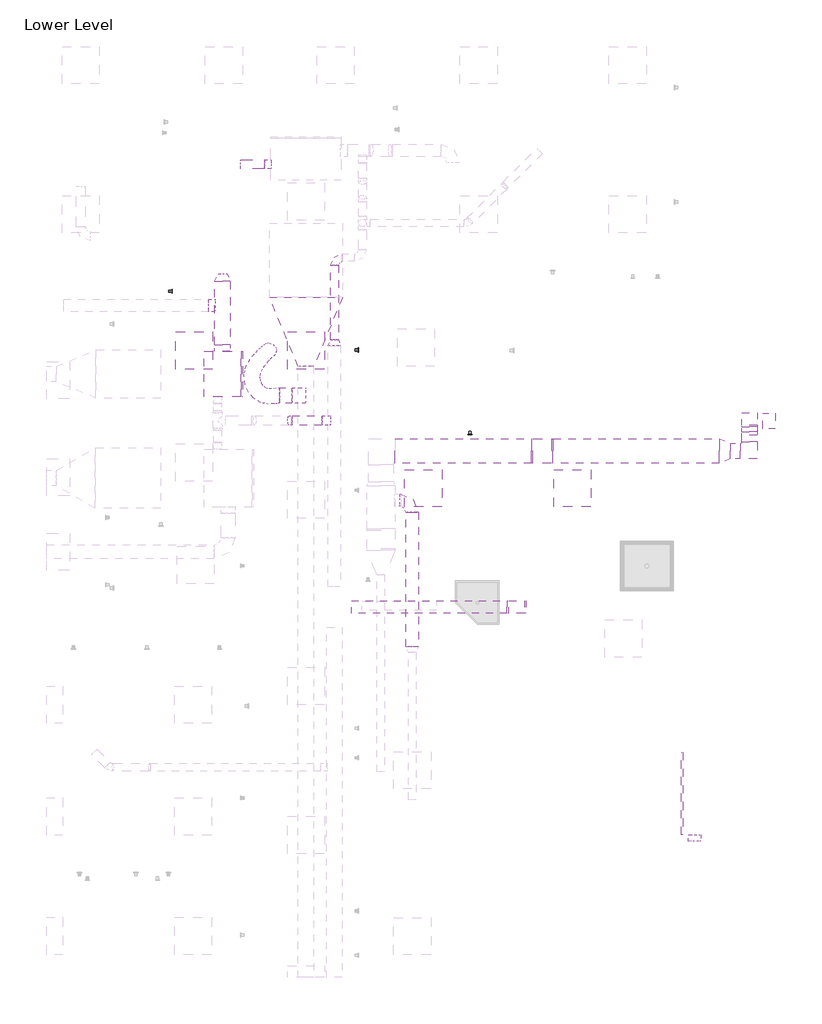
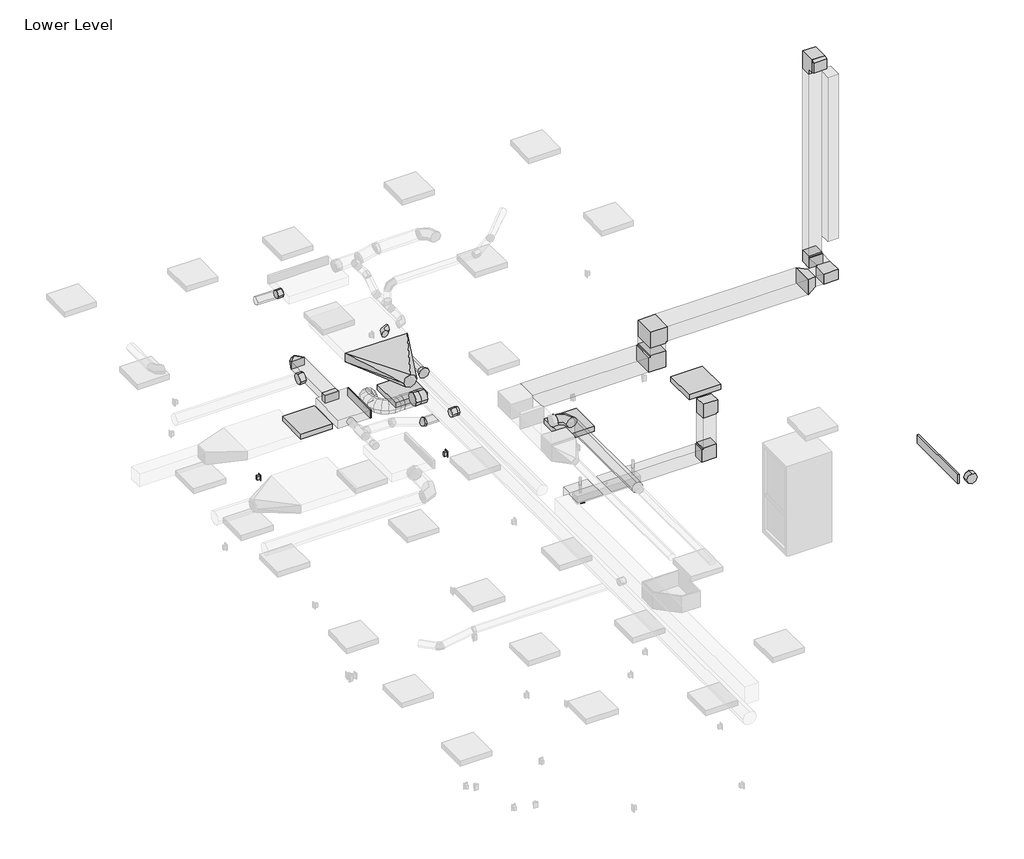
# One storey, part 3 of 4: 23 duct fittings, 17 duct segments, 4 light fixtures, 2 switching devices, 1 proxy.
"""IFC4 building model written with IfcOpenShell, lengths in millimetres."""

from ifc_helpers import new_model, si_unit, point, frame, frame_2d, origin, place, context, project, spatial, polyline, circle_curve, ellipse_curve, trimmed, segment, composite_curve, outline, extrude, transform, mapped, element, save
from ifc_brep_helpers import plane_surface, cylinder_surface, advanced_brep
from components import duplex_receptacle_countertop_10251bba, rectangular_elbow_mitered_transition_standard_34e7224c, rectangular_elbow_mitered_standard_f09b78ec, rectangular_elbow_mitered_standard_c070aa60, rectangular_elbow_mitered_standard_d7b64f5d, rectangular_endcap_standard_43f25f61, rectangular_endcap_standard_3ad2bc23, rectangular_takeoff_standard_c6066038, rectangular_transition_angle_45_degree_591ca4bc, rectangular_transition_angle_45_degree_c4f24900, rectangular_to_round_transition_angle_45_degree_c21d7c10, rectangular_to_round_transition_angle_45_degree_677d3a23, round_elbow_1_d_a253342a, round_elbow_1_d_c80420c1, round_elbow_1_d_f0624a5f, round_takeoff_standard_db554fbb, round_takeoff_standard_d3b0d0f9, round_takeoff_standard_0a2b6d05, round_takeoff_standard_d952ff4d, round_transition_angle_45_degree_a4d0e481, troffer_corner_insert_2x2_3lamp_e67c7f8f

model = new_model("IFC4")

# Units and contexts
model_context = context("Model", 3, world=origin())
ifc_project = project(units=[si_unit("LENGTHUNIT", "METRE", prefix="MILLI")], contexts=[model_context])

# Site, building, storey
site = spatial("IfcSite", under=ifc_project)
building = spatial("IfcBuilding", under=site)
storey = spatial("IfcBuildingStorey", under=building, Name="Lower Level", Elevation=29972.0)

# Proxy
placement = place(None, origin())
duplex_receptacle_countertop_shape = duplex_receptacle_countertop_10251bba(model_context)
element("IfcBuildingElementProxy", 1, Name="Duplex Receptacle : GFCI", ObjectType="Duplex Receptacle : GFCI", at=placement, inside=storey, context=model_context, shape_type="MappedRepresentation", body=[
    mapped(duplex_receptacle_countertop_shape, transform((-10921.2162946, 7255.8695005, 30429.2), x_axis=(1.0, 0.0, 0.0), y_axis=(0.0, 0.0, 1.0), z_axis=(0.0, -1.0, 0.0))),
])

# Duct fittings
rectangular_elbow_mitered_transition_standard_shape = rectangular_elbow_mitered_transition_standard_34e7224c(model_context)
element("IfcDuctFitting", 2, ObjectType="Rectangular Elbow - Mitered - Transition : Standard", at=placement, inside=storey, context=model_context, shape_type="MappedRepresentation", body=[
    mapped(rectangular_elbow_mitered_transition_standard_shape, transform((-6347.3126806, 7505.3293332, 37693.6), x_axis=(0.0, 0.0, 1.0), y_axis=(0.0, -1.0, 0.0), z_axis=(1.0, 0.0, 0.0))),
])
rectangular_elbow_mitered_standard_shape = rectangular_elbow_mitered_standard_f09b78ec(model_context)
element("IfcDuctFitting", 3, ObjectType="Rectangular Elbow - Mitered : Standard", at=placement, inside=storey, context=model_context, shape_type="MappedRepresentation", body=[
    mapped(rectangular_elbow_mitered_standard_shape, transform((-10160.5055151, 4430.1195005, 33807.4), x_axis=(0.0, 0.0, 1.0), y_axis=(1.0, 0.0, 0.0), z_axis=(0.0, 1.0, 0.0))),
])
element("IfcDuctFitting", 4, ObjectType="Rectangular Elbow - Mitered : Standard", at=placement, inside=storey, context=model_context, shape_type="MappedRepresentation", body=[
    mapped(rectangular_elbow_mitered_standard_shape, transform((-6347.3126806, 6984.6293332, 33629.6), x_axis=(1.0, 0.0, 0.0), y_axis=(0.0, 1.0, 0.0), z_axis=(0.0, 0.0, 1.0))),
])
element("IfcDuctFitting", 5, ObjectType="Rectangular Elbow - Mitered : Standard", at=placement, inside=storey, context=model_context, shape_type="MappedRepresentation", body=[
    mapped(rectangular_elbow_mitered_standard_shape, transform((-10160.5055151, 4430.1195005, 32893.0), x_axis=(0.0, 0.0, -1.0), y_axis=(-1.0, 0.0, 0.0), z_axis=(0.0, 1.0, 0.0))),
])
rectangular_elbow_mitered_standard_2_shape = rectangular_elbow_mitered_standard_c070aa60(model_context)
element("IfcDuctFitting", 6, ObjectType="Rectangular Elbow - Mitered : Standard", at=placement, inside=storey, context=model_context, shape_type="MappedRepresentation", body=[
    mapped(rectangular_elbow_mitered_standard_2_shape, transform((-9738.2126806, 6984.6293332, 33121.6), x_axis=(1.0, 0.0, 0.0), y_axis=(0.0, 0.0, 1.0), z_axis=(0.0, -1.0, 0.0))),
])
element("IfcDuctFitting", 7, ObjectType="Rectangular Elbow - Mitered : Standard", at=placement, inside=storey, context=model_context, shape_type="MappedRepresentation", body=[
    mapped(rectangular_elbow_mitered_standard_2_shape, transform((-9738.2126806, 6984.6293332, 33629.6), x_axis=(0.0, 0.0, 1.0), y_axis=(1.0, 0.0, 0.0), z_axis=(0.0, 1.0, 0.0))),
])
rectangular_elbow_mitered_standard_3_shape = rectangular_elbow_mitered_standard_d7b64f5d(model_context)
element("IfcDuctFitting", 8, ObjectType="Rectangular Elbow - Mitered : Standard", at=placement, inside=storey, context=model_context, shape_type="MappedRepresentation", body=[
    mapped(rectangular_elbow_mitered_standard_3_shape, transform((-6347.3126806, 7505.3293332, 33629.6), x_axis=(0.0, 0.0, -1.0), y_axis=(0.0, -1.0, 0.0), z_axis=(-1.0, 0.0, 0.0))),
])
rectangular_endcap_standard_shape = rectangular_endcap_standard_43f25f61(model_context)
element("IfcDuctFitting", 9, ObjectType="Rectangular Endcap : Standard", at=placement, inside=storey, context=model_context, shape_type="MappedRepresentation", body=[
    mapped(rectangular_endcap_standard_shape, transform((-14665.2337034, 8243.4520797, 33121.6), x_axis=(1.0, 0.0, 0.0), y_axis=(0.0, 1.0, 0.0), z_axis=(0.0, 0.0, 1.0))),
])
rectangular_endcap_standard_2_shape = rectangular_endcap_standard_3ad2bc23(model_context)
element("IfcDuctFitting", 10, ObjectType="Rectangular Endcap : Standard", at=placement, inside=storey, context=model_context, shape_type="MappedRepresentation", body=[
    mapped(rectangular_endcap_standard_2_shape, transform((-7438.8450089, 1382.1195005, 33617.69375), x_axis=(-1.0, 0.0, 0.0), y_axis=(0.0, -1.0, 0.0), z_axis=(0.0, 0.0, 1.0))),
])
rectangular_takeoff_standard_shape = rectangular_takeoff_standard_c6066038(model_context)
element("IfcDuctFitting", 11, ObjectType="Rectangular Takeoff : Standard", at=placement, inside=storey, context=model_context, shape_type="MappedRepresentation", body=[
    mapped(rectangular_takeoff_standard_shape, transform((-14970.033703, 8618.7395797, 33121.6), x_axis=(0.0, 1.0, 0.0), y_axis=(1.0, 0.0, 0.0), z_axis=(0.0, 0.0, -1.0))),
])
rectangular_transition_angle_45_degree_shape = rectangular_transition_angle_45_degree_591ca4bc(model_context)
element("IfcDuctFitting", 12, ObjectType="Rectangular Transition - Angle : 45 Degree", at=placement, inside=storey, context=model_context, shape_type="MappedRepresentation", body=[
    mapped(rectangular_transition_angle_45_degree_shape, transform((-6842.6126806, 6984.6293332, 33629.6), x_axis=(1.0, 0.0, 0.0), y_axis=(0.0, 1.0, 0.0), z_axis=(0.0, 0.0, 1.0))),
])
rectangular_transition_angle_45_degree_2_shape = rectangular_transition_angle_45_degree_c4f24900(model_context)
element("IfcDuctFitting", 13, ObjectType="Rectangular Transition - Angle : 45 Degree", at=placement, inside=storey, context=model_context, shape_type="MappedRepresentation", body=[
    mapped(rectangular_transition_angle_45_degree_2_shape, transform((-6347.3126806, 7302.1293332, 37693.6), x_axis=(0.0, -1.0, 0.0), y_axis=(1.0, 0.0, 0.0), z_axis=(0.0, 0.0, 1.0))),
])
rectangular_to_round_transition_angle_45_degree_shape = rectangular_to_round_transition_angle_45_degree_c21d7c10(model_context)
element("IfcDuctFitting", 14, ObjectType="Rectangular to Round Transition - Angle : 45 Degree", at=placement, inside=storey, context=model_context, shape_type="MappedRepresentation", body=[
    mapped(rectangular_to_round_transition_angle_45_degree_shape, transform((-13605.5079607, 9497.2083308, 33125.965625), x_axis=(0.0, -1.0, 0.0), y_axis=(1.0, 0.0, 0.0), z_axis=(0.0, 0.0, 1.0))),
])
rectangular_to_round_transition_angle_45_degree_2_shape = rectangular_to_round_transition_angle_45_degree_677d3a23(model_context)
element("IfcDuctFitting", 15, ObjectType="Rectangular to Round Transition - Angle : 45 Degree", at=placement, inside=storey, context=model_context, shape_type="MappedRepresentation", body=[
    mapped(rectangular_to_round_transition_angle_45_degree_2_shape, transform((-14970.033703, 9761.7395797, 33121.6), x_axis=(0.0, 1.0, 0.0), y_axis=(-1.0, 0.0, 0.0), z_axis=(0.0, 0.0, 1.0))),
])
round_elbow_1_d_shape = round_elbow_1_d_a253342a(model_context)
element("IfcDuctFitting", 16, ObjectType="Round Elbow : 1 D", at=placement, inside=storey, context=model_context, shape_type="MappedRepresentation", body=[
    mapped(round_elbow_1_d_shape, transform((-11866.4513201, 6182.7195005, 33121.6), x_axis=(0.0, 1.0, 0.0), y_axis=(-1.0, 0.0, 0.0), z_axis=(0.0, 0.0, 1.0))),
])
round_elbow_1_d_2_shape = round_elbow_1_d_c80420c1(model_context)
element("IfcDuctFitting", 17, ObjectType="Round Elbow : 1 D", at=placement, inside=storey, context=model_context, shape_type="MappedRepresentation", body=[
    mapped(round_elbow_1_d_2_shape, transform((-13138.544811, 10147.8938374, 32918.4), x_axis=(-1.0, 0.0, 0.0), y_axis=(0.0, -1.0, 0.0), z_axis=(0.0, 0.0, 1.0))),
])
round_elbow_1_d_3_shape = round_elbow_1_d_f0624a5f(model_context)
element("IfcDuctFitting", 18, ObjectType="Round Elbow : 1 D", at=placement, inside=storey, context=model_context, shape_type="MappedRepresentation", body=[
    mapped(round_elbow_1_d_3_shape, transform((-13857.8903997, 7481.5106674, 32918.4), x_axis=(0.9490023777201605, 0.0, -0.31526891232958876), y_axis=(0.31526891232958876, 0.0, 0.9490023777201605), z_axis=(0.0, -1.0, 0.0))),
])
round_takeoff_standard_shape = round_takeoff_standard_db554fbb(model_context)
element("IfcDuctFitting", 19, ObjectType="Round Takeoff : Standard", at=placement, inside=storey, context=model_context, shape_type="MappedRepresentation", body=[
    mapped(round_takeoff_standard_shape, transform((-13240.144811, 7481.5106674, 32918.4), x_axis=(-1.0, 0.0, 0.0), y_axis=(0.0, 1.0, 0.0), z_axis=(0.0, 0.0, -1.0))),
])
round_takeoff_standard_2_shape = round_takeoff_standard_d3b0d0f9(model_context)
element("IfcDuctFitting", 20, ObjectType="Round Takeoff : Standard", at=placement, inside=storey, context=model_context, shape_type="MappedRepresentation", body=[
    mapped(round_takeoff_standard_2_shape, transform((-7247.6134283, 704.2570005, 33617.69375), x_axis=(0.0, -1.0, 0.0), y_axis=(-1.0, 0.0, 0.0), z_axis=(0.0, 0.0, -1.0))),
])
element("IfcDuctFitting", 21, ObjectType="Round Takeoff : Standard", at=placement, inside=storey, context=model_context, shape_type="MappedRepresentation", body=[
    mapped(round_takeoff_standard_2_shape, transform((-15097.033703, 9360.8945005, 33121.6), x_axis=(-1.0, 0.0, 0.0), y_axis=(0.0, 1.0, 0.0), z_axis=(0.0, 0.0, -1.0))),
])
round_takeoff_standard_3_shape = round_takeoff_standard_0a2b6d05(model_context)
element("IfcDuctFitting", 22, ObjectType="Round Takeoff : Standard", at=placement, inside=storey, context=model_context, shape_type="MappedRepresentation", body=[
    mapped(round_takeoff_standard_3_shape, transform((-14180.8079607, 11673.8820005, 33121.6), x_axis=(-1.0, 0.0, 0.0), y_axis=(0.0, 1.0, 0.0), z_axis=(0.0, 0.0, -1.0))),
])
round_takeoff_standard_4_shape = round_takeoff_standard_d952ff4d(model_context)
element("IfcDuctFitting", 23, ObjectType="Round Takeoff : Standard", at=placement, inside=storey, context=model_context, shape_type="MappedRepresentation", body=[
    mapped(round_takeoff_standard_4_shape, transform((-13732.5079603, 7890.6991771, 33125.8664063), x_axis=(-1.0, 0.0, 0.0), y_axis=(0.0, 1.0, 0.0), z_axis=(0.0, 0.0, -1.0))),
])
round_transition_angle_45_degree_shape = round_transition_angle_45_degree_a4d0e481(model_context)
element("IfcDuctFitting", 24, ObjectType="Round Transition - Angle : 45 Degree", at=placement, inside=storey, context=model_context, shape_type="MappedRepresentation", body=[
    mapped(round_transition_angle_45_degree_shape, transform((-13138.544811, 8801.6938374, 32918.4), x_axis=(0.0, -1.0, 0.0), y_axis=(1.0, 0.0, 0.0), z_axis=(0.0, 0.0, 1.0))),
])

# Duct segments
element("IfcDuctSegment", 25, ObjectType="Flex - Round", at=placement, inside=storey, context=model_context, shape_type="AdvancedBrep", body=[
    advanced_brep(
    [(-14037.3079605, 7763.6991771, 33125.8664063), (-14037.3079605, 7890.6991771, 32998.8664063), (-14037.3079605, 8017.6991771, 33125.8664063), (-14037.3079605, 7890.6991771, 33252.8664063), (-14040.9920083, 7763.6991771, 33125.8664063), (-14045.0423151, 7890.6991771, 32998.8664063), (-14050.0146519, 8017.6991771, 33125.8664063), (-14045.9643451, 7890.6991771, 33252.8664063), (-14321.2846893, 8695.563435, 32769.175), (-14145.4265263, 8732.0587291, 32769.175), (-14108.9312321, 8556.2005661, 32769.175), (-14284.7893951, 8519.7052719, 32769.175), (-14119.58986, 7758.1081083, 33125.2950512), (-14126.5972662, 7884.8977546, 32998.2735551), (-14135.1998695, 8011.6395151, 33125.2471654), (-14128.1924633, 7884.8498688, 33252.2686616), (-14225.5060669, 7752.5984317, 33124.7320137), (-14218.0674383, 7880.1395492, 32997.7873109), (-14208.9395831, 8007.803634, 33124.8551742), (-14216.3782117, 7880.2625165, 33251.799877), (-14349.2226435, 7775.3196166, 33127.0502738), (-14306.7437824, 7896.4254154, 32999.4489704), (-14255.7287503, 8016.3967049, 33125.7319318), (-14298.2076115, 7895.2909061, 33253.3332352), (-14462.7192682, 7846.2863307, 33133.252861), (-14384.307358, 7944.9240568, 33003.6878175), (-14294.1283697, 8040.4070649, 33127.8304699), (-14372.5402799, 7941.7693389, 33257.3955134), (-14547.8206041, 7947.8223241, 33138.4069089), (-14443.8431141, 8015.9572793, 33007.2935205), (-14330.9025979, 8084.2830834, 33130.0576516), (-14434.880088, 8016.1481282, 33261.17104), (-14602.6772442, 8069.2170113, 33138.0158328), (-14481.2164139, 8098.6623089, 33007.0270841), (-14356.2082048, 8140.2829811, 33129.8772464), (-14477.6690352, 8110.8376835, 33260.8659951), (-14621.3719284, 8202.6166104, 33127.1461156), (-14493.0254609, 8182.9280887, 33000.1609076), (-14364.2698133, 8197.8081757, 33125.1899565), (-14492.6162808, 8217.4966974, 33252.1751645), (-14598.480399, 8330.6774108, 33102.2923605), (-14478.7118444, 8263.0019522, 32984.6203504), (-14353.5761466, 8257.6311563, 33113.5796456), (-14473.3447013, 8325.3066149, 33231.2516557), (-14548.4441978, 8440.3669796, 33065.8906429), (-14444.5039259, 8337.9926934, 32959.7338292), (-14323.1698818, 8324.2878967, 33091.4588563), (-14427.1101536, 8426.6621829, 33197.6156701), (-14486.5511669, 8530.9053424, 33019.9282394), (-14398.9643943, 8404.6088306, 32925.915703), (-14276.7252307, 8392.2280608, 33056.968579), (-14364.3120032, 8518.5245726, 33150.9811154), (-14423.7636394, 8602.7999632, 32965.1804845), (-14352.0530385, 8458.3245011, 32885.011219), (-14222.2419806, 8454.6139001, 33009.4617613), (-14293.9525816, 8599.0893622, 33089.6310268), (-14370.0613539, 8654.7547782, 32903.1223169), (-14314.1877161, 8494.9576872, 32841.254189), (-14168.702514, 8506.4111943, 32947.5917468), (-14224.5761518, 8666.2082853, 33009.4598747), (-14333.5480554, 8685.9686114, 32835.2414671), (-14290.0874716, 8515.5600717, 32796.4500998), (-14126.965206, 8542.0908351, 32869.9990872), (-14170.4257899, 8712.4993749, 32908.7904545), (-14321.2846893, 8695.563435, 32790.7822465), (-14284.7893951, 8519.7052719, 32777.2426207), (-14108.9312321, 8556.2005661, 32804.6192872), (-14145.4265263, 8732.0587291, 32818.158913)],
    [
        (0, 1, circle_curve(frame((-14037.3079605, 7890.6991771, 33125.8664063), z_axis=(1.0, 0.0, 0.0), x_axis=(0.0, -1.0, 0.0)), 127.0)),
        (1, 2, circle_curve(frame((-14037.3079605, 7890.6991771, 33125.8664063), z_axis=(1.0, 0.0, 0.0), x_axis=(0.0, -1.0, 0.0)), 127.0)),
        (2, 3, circle_curve(frame((-14037.3079605, 7890.6991771, 33125.8664063), z_axis=(1.0, 0.0, 0.0), x_axis=(0.0, -1.0, 0.0)), 127.0)),
        (3, 0, circle_curve(frame((-14037.3079605, 7890.6991771, 33125.8664063), z_axis=(1.0, 0.0, 0.0), x_axis=(0.0, -1.0, 0.0)), 127.0)),
        (0, 4),
        (4, 5, ellipse_curve(frame((-14045.5033301, 7890.6991771, 33125.8664063), z_axis=(0.9993631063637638, 0.03549959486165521, 0.0036277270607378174), x_axis=(0.03568447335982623, -0.9941854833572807, -0.10159647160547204)), 127.080937, 127.0)),
        (5, 1),
        (5, 6, ellipse_curve(frame((-14045.5033301, 7890.6991771, 33125.8664063), z_axis=(0.9993631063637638, 0.03549959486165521, 0.0036277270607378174), x_axis=(0.03568447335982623, -0.9941854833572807, -0.10159647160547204)), 127.080937, 127.0)),
        (6, 2),
        (6, 7, ellipse_curve(frame((-14045.5033301, 7890.6991771, 33125.8664063), z_axis=(0.9993631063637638, 0.03549959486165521, 0.0036277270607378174), x_axis=(0.03568447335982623, -0.9941854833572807, -0.10159647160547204)), 127.080937, 127.0)),
        (7, 3),
        (7, 4, ellipse_curve(frame((-14045.5033301, 7890.6991771, 33125.8664063), z_axis=(0.9993631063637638, 0.03549959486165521, 0.0036277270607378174), x_axis=(0.03568447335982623, -0.9941854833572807, -0.10159647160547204)), 127.080937, 127.0)),
        (8, 9, circle_curve(frame((-14215.1079607, 8625.8820005, 32769.175), z_axis=(0.0, 0.0, -1.0), x_axis=(-0.8360372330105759, 0.5486727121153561, 0.0)), 127.0)),
        (9, 10, circle_curve(frame((-14215.1079607, 8625.8820005, 32769.175), z_axis=(0.0, 0.0, -1.0), x_axis=(-0.8360372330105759, 0.5486727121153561, 0.0)), 127.0)),
        (10, 11, circle_curve(frame((-14215.1079607, 8625.8820005, 32769.175), z_axis=(0.0, 0.0, -1.0), x_axis=(-0.8360372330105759, 0.5486727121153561, 0.0)), 127.0)),
        (11, 8, circle_curve(frame((-14215.1079607, 8625.8820005, 32769.175), z_axis=(0.0, 0.0, -1.0), x_axis=(-0.8360372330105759, 0.5486727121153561, 0.0)), 127.0)),
        (4, 12),
        (12, 13, ellipse_curve(frame((-14127.3948648, 7884.8738117, 33125.2711083), z_axis=(0.9980901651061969, 0.06145391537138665, 0.0062800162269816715), x_axis=(-0.06177396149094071, 0.9929191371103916, 0.10146706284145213)), 127.0058168, 127.0)),
        (13, 5),
        (13, 14, ellipse_curve(frame((-14127.3948648, 7884.8738117, 33125.2711083), z_axis=(0.9980901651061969, 0.06145391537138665, 0.0062800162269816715), x_axis=(-0.06177396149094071, 0.9929191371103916, 0.10146706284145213)), 127.0058168, 127.0)),
        (14, 6),
        (14, 15, ellipse_curve(frame((-14127.3948648, 7884.8738117, 33125.2711083), z_axis=(0.9980901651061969, 0.06145391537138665, 0.0062800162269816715), x_axis=(-0.06177396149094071, 0.9929191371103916, 0.10146706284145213)), 127.0058168, 127.0)),
        (15, 7),
        (15, 12, ellipse_curve(frame((-14127.3948648, 7884.8738117, 33125.2711083), z_axis=(0.9980901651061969, 0.06145391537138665, 0.0062800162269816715), x_axis=(-0.06177396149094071, 0.9929191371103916, 0.10146706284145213)), 127.0058168, 127.0)),
        (12, 16),
        (16, 17, ellipse_curve(frame((-14217.222825, 7880.2010329, 33124.793594), z_axis=(0.9978781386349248, -0.06477343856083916, -0.0066047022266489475), x_axis=(0.06510929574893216, 0.9927206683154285, 0.10132351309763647)), 127.8802283, 127.0)),
        (17, 13),
        (17, 18, ellipse_curve(frame((-14217.222825, 7880.2010329, 33124.793594), z_axis=(0.9978781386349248, -0.06477343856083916, -0.0066047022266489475), x_axis=(0.06510929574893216, 0.9927206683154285, 0.10132351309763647)), 127.8802283, 127.0)),
        (18, 14),
        (18, 19, ellipse_curve(frame((-14217.222825, 7880.2010329, 33124.793594), z_axis=(0.9978781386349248, -0.06477343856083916, -0.0066047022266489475), x_axis=(0.06510929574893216, 0.9927206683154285, 0.10132351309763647)), 127.8802283, 127.0)),
        (19, 15),
        (19, 16, ellipse_curve(frame((-14217.222825, 7880.2010329, 33124.793594), z_axis=(0.9978781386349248, -0.06477343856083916, -0.0066047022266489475), x_axis=(0.06510929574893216, 0.9927206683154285, 0.10132351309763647)), 127.8802283, 127.0)),
        (16, 20),
        (20, 21, ellipse_curve(frame((-14302.4756969, 7895.8581608, 33126.3911028), z_axis=(0.9317749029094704, -0.36153868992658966, -0.03294398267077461), x_axis=(0.3630167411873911, 0.9288276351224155, 0.0741489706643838)), 129.3023413, 127.0)),
        (21, 17),
        (21, 22, ellipse_curve(frame((-14302.4756969, 7895.8581608, 33126.3911028), z_axis=(0.9317749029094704, -0.36153868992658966, -0.03294398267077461), x_axis=(0.3630167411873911, 0.9288276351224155, 0.0741489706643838)), 129.3023413, 127.0)),
        (22, 18),
        (22, 23, ellipse_curve(frame((-14302.4756969, 7895.8581608, 33126.3911028), z_axis=(0.9317749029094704, -0.36153868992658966, -0.03294398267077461), x_axis=(0.3630167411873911, 0.9288276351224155, 0.0741489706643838)), 129.3023413, 127.0)),
        (23, 19),
        (23, 20, ellipse_curve(frame((-14302.4756969, 7895.8581608, 33126.3911028), z_axis=(0.9317749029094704, -0.36153868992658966, -0.03294398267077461), x_axis=(0.3630167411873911, 0.9288276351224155, 0.0741489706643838)), 129.3023413, 127.0)),
        (20, 24),
        (24, 25, ellipse_curve(frame((-14378.423819, 7943.3466978, 33130.5416655), z_axis=(0.7537108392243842, -0.655790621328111, -0.04311185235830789), x_axis=(0.6554451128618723, 0.7548711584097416, -0.02369046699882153)), 128.5837899, 127.0)),
        (25, 21),
        (25, 26, ellipse_curve(frame((-14378.423819, 7943.3466978, 33130.5416655), z_axis=(0.7537108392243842, -0.655790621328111, -0.04311185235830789), x_axis=(0.6554451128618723, 0.7548711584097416, -0.02369046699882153)), 128.5837899, 127.0)),
        (26, 22),
        (26, 27, ellipse_curve(frame((-14378.423819, 7943.3466978, 33130.5416655), z_axis=(0.7537108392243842, -0.655790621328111, -0.04311185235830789), x_axis=(0.6554451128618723, 0.7548711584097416, -0.02369046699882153)), 128.5837899, 127.0)),
        (27, 23),
        (27, 24, ellipse_curve(frame((-14378.423819, 7943.3466978, 33130.5416655), z_axis=(0.7537108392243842, -0.655790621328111, -0.04311185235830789), x_axis=(0.6554451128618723, 0.7548711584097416, -0.02369046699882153)), 128.5837899, 127.0)),
        (24, 28),
        (28, 29, ellipse_curve(frame((-14439.361601, 8016.0527037, 33134.2322802), z_axis=(0.5318975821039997, -0.846614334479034, -0.01814196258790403), x_axis=(0.8354693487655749, 0.5281489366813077, -0.1518211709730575)), 128.2213297, 127.0)),
        (29, 25),
        (29, 30, ellipse_curve(frame((-14439.361601, 8016.0527037, 33134.2322802), z_axis=(0.5318975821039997, -0.846614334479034, -0.01814196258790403), x_axis=(0.8354693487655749, 0.5281489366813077, -0.1518211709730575)), 128.2213297, 127.0)),
        (30, 26),
        (30, 31, ellipse_curve(frame((-14439.361601, 8016.0527037, 33134.2322802), z_axis=(0.5318975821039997, -0.846614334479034, -0.01814196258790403), x_axis=(0.8354693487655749, 0.5281489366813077, -0.1518211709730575)), 128.2213297, 127.0)),
        (31, 27),
        (31, 28, ellipse_curve(frame((-14439.361601, 8016.0527037, 33134.2322802), z_axis=(0.5318975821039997, -0.846614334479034, -0.01814196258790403), x_axis=(0.8354693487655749, 0.5281489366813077, -0.1518211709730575)), 128.2213297, 127.0)),
        (28, 32),
        (32, 33, ellipse_curve(frame((-14479.4427245, 8104.7499962, 33133.9465396), z_axis=(0.2780879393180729, -0.9596307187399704, 0.04214239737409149), x_axis=(0.9295867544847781, 0.2578125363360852, -0.2634410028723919)), 128.3964684, 127.0)),
        (33, 29),
        (33, 34, ellipse_curve(frame((-14479.4427245, 8104.7499962, 33133.9465396), z_axis=(0.2780879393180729, -0.9596307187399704, 0.04214239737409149), x_axis=(0.9295867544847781, 0.2578125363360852, -0.2634410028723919)), 128.3964684, 127.0)),
        (34, 30),
        (34, 35, ellipse_curve(frame((-14479.4427245, 8104.7499962, 33133.9465396), z_axis=(0.2780879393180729, -0.9596307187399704, 0.04214239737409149), x_axis=(0.9295867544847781, 0.2578125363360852, -0.2634410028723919)), 128.3964684, 127.0)),
        (35, 31),
        (35, 32, ellipse_curve(frame((-14479.4427245, 8104.7499962, 33133.9465396), z_axis=(0.2780879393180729, -0.9596307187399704, 0.04214239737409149), x_axis=(0.9295867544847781, 0.2578125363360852, -0.2634410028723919)), 128.3964684, 127.0)),
        (32, 36),
        (36, 37, ellipse_curve(frame((-14492.8208709, 8200.212393, 33126.1680361), z_axis=(-0.017491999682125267, -0.9905676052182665, 0.1359038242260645), x_axis=(0.9436698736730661, -0.061275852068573, -0.32516524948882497)), 128.7621713, 127.0)),
        (37, 33),
        (37, 38, ellipse_curve(frame((-14492.8208709, 8200.212393, 33126.1680361), z_axis=(-0.017491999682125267, -0.9905676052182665, 0.1359038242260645), x_axis=(0.9436698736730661, -0.061275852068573, -0.32516524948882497)), 128.7621713, 127.0)),
        (38, 34),
        (38, 39, ellipse_curve(frame((-14492.8208709, 8200.212393, 33126.1680361), z_axis=(-0.017491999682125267, -0.9905676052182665, 0.1359038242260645), x_axis=(0.9436698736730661, -0.061275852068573, -0.32516524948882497)), 128.7621713, 127.0)),
        (39, 35),
        (39, 36, ellipse_curve(frame((-14492.8208709, 8200.212393, 33126.1680361), z_axis=(-0.017491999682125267, -0.9905676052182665, 0.1359038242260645), x_axis=(0.9436698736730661, -0.061275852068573, -0.32516524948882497)), 128.7621713, 127.0)),
        (36, 40),
        (40, 41, ellipse_curve(frame((-14476.0282728, 8294.1542836, 33107.936003), z_axis=(-0.2875960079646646, -0.9270750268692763, 0.24045879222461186), x_axis=(0.8492076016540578, -0.3629290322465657, -0.38357393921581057)), 128.1238941, 127.0)),
        (41, 37),
        (41, 42, ellipse_curve(frame((-14476.0282728, 8294.1542836, 33107.936003), z_axis=(-0.2875960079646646, -0.9270750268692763, 0.24045879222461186), x_axis=(0.8492076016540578, -0.3629290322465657, -0.38357393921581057)), 128.1238941, 127.0)),
        (42, 38),
        (42, 43, ellipse_curve(frame((-14476.0282728, 8294.1542836, 33107.936003), z_axis=(-0.2875960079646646, -0.9270750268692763, 0.24045879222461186), x_axis=(0.8492076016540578, -0.3629290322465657, -0.38357393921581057)), 128.1238941, 127.0)),
        (43, 39),
        (43, 40, ellipse_curve(frame((-14476.0282728, 8294.1542836, 33107.936003), z_axis=(-0.2875960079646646, -0.9270750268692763, 0.24045879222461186), x_axis=(0.8492076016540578, -0.3629290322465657, -0.38357393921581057)), 128.1238941, 127.0)),
        (40, 44),
        (44, 45, ellipse_curve(frame((-14435.8070398, 8382.3274382, 33078.6747496), z_axis=(-0.4610156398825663, -0.8199465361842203, 0.3393409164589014), x_axis=(0.643111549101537, -0.5722056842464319, -0.5089088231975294)), 127.5864377, 127.0)),
        (45, 41),
        (45, 46, ellipse_curve(frame((-14435.8070398, 8382.3274382, 33078.6747496), z_axis=(-0.4610156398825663, -0.8199465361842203, 0.3393409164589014), x_axis=(0.643111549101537, -0.5722056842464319, -0.5089088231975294)), 127.5864377, 127.0)),
        (46, 42),
        (46, 47, ellipse_curve(frame((-14435.8070398, 8382.3274382, 33078.6747496), z_axis=(-0.4610156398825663, -0.8199465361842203, 0.3393409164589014), x_axis=(0.643111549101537, -0.5722056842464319, -0.5089088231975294)), 127.5864377, 127.0)),
        (47, 43),
        (47, 44, ellipse_curve(frame((-14435.8070398, 8382.3274382, 33078.6747496), z_axis=(-0.4610156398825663, -0.8199465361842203, 0.3393409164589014), x_axis=(0.643111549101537, -0.5722056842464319, -0.5089088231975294)), 127.5864377, 127.0)),
        (44, 48),
        (48, 49, ellipse_curve(frame((-14381.6381988, 8461.5667016, 33038.4484092), z_axis=(-0.547358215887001, -0.7097243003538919, 0.4434979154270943), x_axis=(0.30780649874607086, -0.663509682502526, -0.6819164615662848)), 127.4228424, 127.0)),
        (49, 45),
        (49, 50, ellipse_curve(frame((-14381.6381988, 8461.5667016, 33038.4484092), z_axis=(-0.547358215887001, -0.7097243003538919, 0.4434979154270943), x_axis=(0.30780649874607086, -0.663509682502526, -0.6819164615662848)), 127.4228424, 127.0)),
        (50, 46),
        (50, 51, ellipse_curve(frame((-14381.6381988, 8461.5667016, 33038.4484092), z_axis=(-0.547358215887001, -0.7097243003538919, 0.4434979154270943), x_axis=(0.30780649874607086, -0.663509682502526, -0.6819164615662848)), 127.4228424, 127.0)),
        (51, 47),
        (51, 48, ellipse_curve(frame((-14381.6381988, 8461.5667016, 33038.4484092), z_axis=(-0.547358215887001, -0.7097243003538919, 0.4434979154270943), x_axis=(0.30780649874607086, -0.663509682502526, -0.6819164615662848)), 127.4228424, 127.0)),
        (48, 52),
        (52, 53, ellipse_curve(frame((-14323.00281, 8528.7069316, 32987.3211229), z_axis=(-0.5641673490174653, -0.5966933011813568, 0.5706770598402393), x_axis=(-0.09558938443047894, -0.6393261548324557, -0.7629709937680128)), 127.548613, 127.0)),
        (53, 49),
        (53, 54, ellipse_curve(frame((-14323.00281, 8528.7069316, 32987.3211229), z_axis=(-0.5641673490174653, -0.5966933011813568, 0.5706770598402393), x_axis=(-0.09558938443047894, -0.6393261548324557, -0.7629709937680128)), 127.548613, 127.0)),
        (54, 50),
        (54, 55, ellipse_curve(frame((-14323.00281, 8528.7069316, 32987.3211229), z_axis=(-0.5641673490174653, -0.5966933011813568, 0.5706770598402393), x_axis=(-0.09558938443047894, -0.6393261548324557, -0.7629709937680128)), 127.548613, 127.0)),
        (55, 51),
        (55, 52, ellipse_curve(frame((-14323.00281, 8528.7069316, 32987.3211229), z_axis=(-0.5641673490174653, -0.5966933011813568, 0.5706770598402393), x_axis=(-0.09558938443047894, -0.6393261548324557, -0.7629709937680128)), 127.548613, 127.0)),
        (52, 56),
        (56, 57, ellipse_curve(frame((-14269.3819339, 8580.5829863, 32925.3570319), z_axis=(-0.500371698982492, -0.4591510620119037, 0.7340357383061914), x_axis=(-0.4305526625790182, -0.603587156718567, -0.6710491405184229)), 128.1238502, 127.0)),
        (57, 53),
        (57, 58, ellipse_curve(frame((-14269.3819339, 8580.5829863, 32925.3570319), z_axis=(-0.500371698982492, -0.4591510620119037, 0.7340357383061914), x_axis=(-0.4305526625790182, -0.603587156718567, -0.6710491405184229)), 128.1238502, 127.0)),
        (58, 54),
        (58, 59, ellipse_curve(frame((-14269.3819339, 8580.5829863, 32925.3570319), z_axis=(-0.500371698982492, -0.4591510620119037, 0.7340357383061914), x_axis=(-0.4305526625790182, -0.603587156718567, -0.6710491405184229)), 128.1238502, 127.0)),
        (59, 55),
        (59, 56, ellipse_curve(frame((-14269.3819339, 8580.5829863, 32925.3570319), z_axis=(-0.500371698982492, -0.4591510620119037, 0.7340357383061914), x_axis=(-0.4305526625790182, -0.603587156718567, -0.6710491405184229)), 128.1238502, 127.0)),
        (56, 60),
        (60, 61, ellipse_curve(frame((-14230.2566307, 8614.0297233, 32852.6202772), z_axis=(-0.353151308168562, -0.2923703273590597, 0.888709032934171), x_axis=(-0.6413411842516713, -0.6159431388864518, -0.4574882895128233)), 128.251455, 127.0)),
        (61, 57),
        (61, 62, ellipse_curve(frame((-14230.2566307, 8614.0297233, 32852.6202772), z_axis=(-0.353151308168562, -0.2923703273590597, 0.888709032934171), x_axis=(-0.6413411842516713, -0.6159431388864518, -0.4574882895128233)), 128.251455, 127.0)),
        (62, 58),
        (62, 63, ellipse_curve(frame((-14230.2566307, 8614.0297233, 32852.6202772), z_axis=(-0.353151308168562, -0.2923703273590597, 0.888709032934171), x_axis=(-0.6413411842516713, -0.6159431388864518, -0.4574882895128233)), 128.251455, 127.0)),
        (63, 59),
        (63, 60, ellipse_curve(frame((-14230.2566307, 8614.0297233, 32852.6202772), z_axis=(-0.353151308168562, -0.2923703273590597, 0.888709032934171), x_axis=(-0.6413411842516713, -0.6159431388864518, -0.4574882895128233)), 128.251455, 127.0)),
        (60, 64),
        (64, 65, ellipse_curve(frame((-14215.1079607, 8625.8820005, 32797.7007668), z_axis=(-0.13203347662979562, -0.1033026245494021, 0.9858477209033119), x_axis=(-0.776439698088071, -0.6074842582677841, -0.1676432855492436)), 128.823141, 127.0)),
        (65, 61),
        (65, 66, ellipse_curve(frame((-14215.1079607, 8625.8820005, 32797.7007668), z_axis=(-0.13203347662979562, -0.1033026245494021, 0.9858477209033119), x_axis=(-0.776439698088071, -0.6074842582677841, -0.1676432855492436)), 128.823141, 127.0)),
        (66, 62),
        (66, 67, ellipse_curve(frame((-14215.1079607, 8625.8820005, 32797.7007668), z_axis=(-0.13203347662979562, -0.1033026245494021, 0.9858477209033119), x_axis=(-0.776439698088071, -0.6074842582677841, -0.1676432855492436)), 128.823141, 127.0)),
        (67, 63),
        (67, 64, ellipse_curve(frame((-14215.1079607, 8625.8820005, 32797.7007668), z_axis=(-0.13203347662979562, -0.1033026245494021, 0.9858477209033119), x_axis=(-0.776439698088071, -0.6074842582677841, -0.1676432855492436)), 128.823141, 127.0)),
        (64, 8),
        (11, 65),
        (10, 66),
        (9, 67),
    ],
    [
        plane_surface(frame((-14037.3079605, 7890.6991771, 32998.8664063), z_axis=(1.0, 0.0, 0.0), x_axis=(0.0, -1.0, 0.0))),
        cylinder_surface(frame((-14037.3079605, 7890.6991771, 33125.8664063), z_axis=(1.0, 0.0, 0.0), x_axis=(0.0, -1.0, 0.0)), 127.0),
        plane_surface(frame((-14215.1079607, 8498.8820005, 32769.175), z_axis=(0.0, 0.0, -1.0), x_axis=(-1.0, 0.0, 0.0))),
        cylinder_surface(frame((-14045.5033301, 7890.6991771, 33125.8664063), z_axis=(0.9974532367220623, 0.0709539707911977, 0.007250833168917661), x_axis=(0.0709539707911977, -0.9974795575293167, 0.00025756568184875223)), 127.0),
        cylinder_surface(frame((-14127.3948648, 7884.8738117, 33125.2711083), z_axis=(0.9986356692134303, 0.05194823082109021, 0.005308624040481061), x_axis=(0.05194823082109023, -0.9986497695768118, 0.00013798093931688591)), 127.0),
        cylinder_surface(frame((-14217.222825, 7880.2010329, 33124.793594), z_axis=(0.983383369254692, -0.18060340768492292, -0.018427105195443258), x_axis=(-0.18060342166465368, -0.9835545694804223, 0.0016771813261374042)), 127.0),
        cylinder_surface(frame((-14302.4756969, 7895.8581608, 33126.3911028), z_axis=(0.8469843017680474, -0.5295989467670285, -0.04628766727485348), x_axis=(-0.5295643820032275, -0.8481539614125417, 0.01401510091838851)), 127.0),
        cylinder_surface(frame((-14378.423819, 7943.3466978, 33130.5416655), z_axis=(0.6418701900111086, -0.7658273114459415, -0.03887400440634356), x_axis=(-0.7654288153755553, -0.6429324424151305, 0.02750641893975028)), 127.0),
        cylinder_surface(frame((-14439.361601, 8016.0527037, 33134.2322802), z_axis=(0.41179214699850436, -0.9112730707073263, 0.002935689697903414), x_axis=(-0.9108358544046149, -0.4114899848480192, 0.0324659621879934)), 127.0),
        cylinder_surface(frame((-14479.4427245, 8104.7499962, 33133.9465396), z_axis=(0.1383346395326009, -0.9871140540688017, 0.0804324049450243), x_axis=(-0.990343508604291, -0.13712358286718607, 0.020417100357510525)), 127.0),
        cylinder_surface(frame((-14492.8208709, 8200.212393, 33126.1680361), z_axis=(-0.1728398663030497, -0.9669083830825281, 0.18765542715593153), x_axis=(-0.9848885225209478, 0.17179092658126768, -0.021965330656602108)), 127.0),
        cylinder_surface(frame((-14476.0282728, 8294.1542836, 33107.936003), z_axis=(-0.39730660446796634, -0.8709771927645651, 0.28904358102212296), x_axis=(-0.916610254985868, 0.3918881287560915, -0.07905273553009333)), 127.0),
        cylinder_surface(frame((-14435.8070398, 8382.3274382, 33078.6747496), z_axis=(-0.5204866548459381, -0.7613782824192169, 0.3865187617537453), x_axis=(-0.8479940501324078, 0.5139265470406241, -0.12955923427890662)), 127.0),
        cylinder_surface(frame((-14381.6381988, 8461.5667016, 33038.4484092), z_axis=(-0.5705970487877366, -0.6533599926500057, 0.497533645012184), x_axis=(-0.8020694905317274, 0.5734739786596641, -0.1667696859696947)), 127.0),
        cylinder_surface(frame((-14323.00281, 8528.7069316, 32987.3211229), z_axis=(-0.5528844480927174, -0.5348936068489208, 0.6389112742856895), x_axis=(-0.7849845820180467, 0.5915438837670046, -0.18405173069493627)), 127.0),
        cylinder_surface(frame((-14269.3819339, 8580.5829863, 32925.3570319), z_axis=(-0.43908083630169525, -0.37535354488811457, 0.8162828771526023), x_axis=(-0.7989194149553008, 0.5787570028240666, -0.16360959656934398)), 127.0),
        cylinder_surface(frame((-14230.2566307, 8614.0297233, 32852.6202772), z_axis=(-0.2603298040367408, -0.20368131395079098, 0.9437914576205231), x_axis=(-0.8218553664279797, 0.5597685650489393, -0.1058910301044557)), 127.0),
        cylinder_surface(frame((-14215.1079607, 8625.8820005, 32797.7007668), z_axis=(0.0, 0.0, 1.0000000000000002), x_axis=(-0.8360372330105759, 0.5486727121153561, 0.0)), 127.0),
    ],
    [
        (0, [[1, 2, 3, 4]]),
        (1, [[-1, 5, 6, 7]]),
        (1, [[-2, -7, 8, 9]]),
        (1, [[-3, -9, 10, 11]]),
        (1, [[-4, -11, 12, -5]]),
        (2, [[13, 14, 15, 16]]),
        (3, [[-6, 17, 18, 19]]),
        (3, [[-8, -19, 20, 21]]),
        (3, [[-10, -21, 22, 23]]),
        (3, [[-12, -23, 24, -17]]),
        (4, [[-18, 25, 26, 27]]),
        (4, [[-20, -27, 28, 29]]),
        (4, [[-22, -29, 30, 31]]),
        (4, [[-24, -31, 32, -25]]),
        (5, [[-26, 33, 34, 35]]),
        (5, [[-28, -35, 36, 37]]),
        (5, [[-30, -37, 38, 39]]),
        (5, [[-32, -39, 40, -33]]),
        (6, [[-34, 41, 42, 43]]),
        (6, [[-36, -43, 44, 45]]),
        (6, [[-38, -45, 46, 47]]),
        (6, [[-40, -47, 48, -41]]),
        (7, [[-42, 49, 50, 51]]),
        (7, [[-44, -51, 52, 53]]),
        (7, [[-46, -53, 54, 55]]),
        (7, [[-48, -55, 56, -49]]),
        (8, [[-50, 57, 58, 59]]),
        (8, [[-52, -59, 60, 61]]),
        (8, [[-54, -61, 62, 63]]),
        (8, [[-56, -63, 64, -57]]),
        (9, [[-58, 65, 66, 67]]),
        (9, [[-60, -67, 68, 69]]),
        (9, [[-62, -69, 70, 71]]),
        (9, [[-64, -71, 72, -65]]),
        (10, [[-66, 73, 74, 75]]),
        (10, [[-68, -75, 76, 77]]),
        (10, [[-70, -77, 78, 79]]),
        (10, [[-72, -79, 80, -73]]),
        (11, [[-74, 81, 82, 83]]),
        (11, [[-76, -83, 84, 85]]),
        (11, [[-78, -85, 86, 87]]),
        (11, [[-80, -87, 88, -81]]),
        (12, [[-82, 89, 90, 91]]),
        (12, [[-84, -91, 92, 93]]),
        (12, [[-86, -93, 94, 95]]),
        (12, [[-88, -95, 96, -89]]),
        (13, [[-90, 97, 98, 99]]),
        (13, [[-92, -99, 100, 101]]),
        (13, [[-94, -101, 102, 103]]),
        (13, [[-96, -103, 104, -97]]),
        (14, [[-98, 105, 106, 107]]),
        (14, [[-100, -107, 108, 109]]),
        (14, [[-102, -109, 110, 111]]),
        (14, [[-104, -111, 112, -105]]),
        (15, [[-106, 113, 114, 115]]),
        (15, [[-108, -115, 116, 117]]),
        (15, [[-110, -117, 118, 119]]),
        (15, [[-112, -119, 120, -113]]),
        (16, [[-114, 121, 122, 123]]),
        (16, [[-116, -123, 124, 125]]),
        (16, [[-118, -125, 126, 127]]),
        (16, [[-120, -127, 128, -121]]),
        (17, [[-122, 129, -16, 130]]),
        (17, [[-124, -130, -15, 131]]),
        (17, [[-126, -131, -14, 132]]),
        (17, [[-128, -132, -13, -129]]),
    ],
),
])
element("IfcDuctSegment", 26, ObjectType="Mitered Elbows / Taps", at=placement, inside=storey, context=model_context, shape_type="SweptSolid", body=[
    extrude(outline(polyline([(-14843.033703, 8720.3395797), (-15097.033703, 8720.3395797), (-15097.033703, 9761.7395797), (-14843.033703, 9761.7395797), (-14843.033703, 8720.3395797)])), frame((0.0, 0.0, 33045.4), z_axis=(0.0, 0.0, 1.0), x_axis=(1.0, 0.0, 0.0)), (0.0, 0.0, 1.0), 152.4),
])
element("IfcDuctSegment", 27, ObjectType="Mitered Elbows / Taps", at=placement, inside=storey, context=model_context, shape_type="SweptSolid", body=[
    extrude(outline(polyline([(-14665.2337034, 8618.7395797), (-14665.2337034, 7868.1645797), (-15274.8337025, 7868.1645797), (-15274.8337025, 8618.7395797), (-14665.2337034, 8618.7395797)])), frame((0.0, 0.0, 33041.6792969), z_axis=(0.0, 0.0, 1.0), x_axis=(1.0, 0.0, 0.0)), (0.0, 0.0, 1.0), 159.8414062),
])
element("IfcDuctSegment", 28, ObjectType="Mitered Elbows / Taps", at=placement, inside=storey, context=model_context, shape_type="SweptSolid", body=[
    extrude(outline(polyline([(-12151.2126806, 6781.4293332), (-12151.2126806, 7187.8293332), (-9916.0126806, 7187.8293332), (-9916.0126806, 6781.4293332), (-12151.2126806, 6781.4293332)])), frame((0.0, 0.0, 32969.2), z_axis=(0.0, 0.0, 1.0), x_axis=(1.0, 0.0, 0.0)), (0.0, 0.0, 1.0), 304.8),
])
element("IfcDuctSegment", 29, ObjectType="Mitered Elbows / Taps", at=placement, inside=storey, context=model_context, shape_type="SweptSolid", body=[
    extrude(outline(polyline([(-10312.9055151, 4531.7195005), (-10312.9055151, 4328.5195005), (-12859.144811, 4328.5195005), (-12859.144811, 4531.7195005), (-10312.9055151, 4531.7195005)])), frame((0.0, 0.0, 32766.0), z_axis=(0.0, 0.0, 1.0), x_axis=(1.0, 0.0, 0.0)), (0.0, 0.0, 1.0), 254.0),
])
element("IfcDuctSegment", 30, ObjectType="Mitered Elbows / Taps", at=placement, inside=storey, context=model_context, shape_type="SweptSolid", body=[
    extrude(outline(polyline([(-10033.5055151, 4531.7195005), (-10033.5055151, 4328.5195005), (-10287.5055151, 4328.5195005), (-10287.5055151, 4531.7195005), (-10033.5055151, 4531.7195005)])), frame((0.0, 0.0, 33045.4), z_axis=(0.0, 0.0, 1.0), x_axis=(1.0, 0.0, 0.0)), (0.0, 0.0, 1.0), 609.6),
])
element("IfcDuctSegment", 31, ObjectType="Mitered Elbows / Taps", at=placement, inside=storey, context=model_context, shape_type="SweptSolid", body=[
    extrude(outline(polyline([(-9585.8126806, 7187.8293332), (-9585.8126806, 6781.4293332), (-9890.6126806, 6781.4293332), (-9890.6126806, 7187.8293332), (-9585.8126806, 7187.8293332)])), frame((0.0, 0.0, 33299.4), z_axis=(0.0, 0.0, 1.0), x_axis=(1.0, 0.0, 0.0)), (0.0, 0.0, 1.0), 152.4),
])
element("IfcDuctSegment", 32, ObjectType="Mitered Elbows / Taps", at=placement, inside=storey, context=model_context, shape_type="SweptSolid", body=[
    extrude(outline(polyline([(-9560.4126806, 6781.4293332), (-9560.4126806, 7187.8293332), (-6842.6126806, 7187.8293332), (-6842.6126806, 6781.4293332), (-9560.4126806, 6781.4293332)])), frame((0.0, 0.0, 33477.2), z_axis=(0.0, 0.0, 1.0), x_axis=(1.0, 0.0, 0.0)), (0.0, 0.0, 1.0), 304.8),
])
element("IfcDuctSegment", 33, ObjectType="Mitered Elbows / Taps", at=placement, inside=storey, context=model_context, shape_type="SweptSolid", body=[
    extrude(outline(polyline([(-6131.4204015, 7605.1195005), (-5928.2204015, 7605.1195005), (-5928.2204015, 7351.1195005), (-6131.4204015, 7351.1195005), (-6131.4204015, 7605.1195005)])), frame((0.0, 0.0, 33959.8), z_axis=(0.0, 0.0, 1.0), x_axis=(1.0, 0.0, 0.0)), (0.0, 0.0, 1.0), 3352.8),
])
element("IfcDuctSegment", 34, ObjectType="Mitered Elbows / Taps", at=placement, inside=storey, context=model_context, shape_type="SweptSolid", body=[
    extrude(outline(polyline([(-6658.6496071, 6857.6293332), (-6658.6496071, 7111.6293332), (-6499.7126806, 7111.6293332), (-6499.7126806, 6857.6293332), (-6658.6496071, 6857.6293332)])), frame((0.0, 0.0, 33528.0), z_axis=(0.0, 0.0, 1.0), x_axis=(1.0, 0.0, 0.0)), (0.0, 0.0, 1.0), 203.2),
])
element("IfcDuctSegment", 35, ObjectType="Mitered Elbows / Taps", at=placement, inside=storey, context=model_context, shape_type="SweptSolid", body=[
    extrude(outline(polyline([(-6474.3126806, 7403.7293332), (-6474.3126806, 7606.9293332), (-6220.3126806, 7606.9293332), (-6220.3126806, 7403.7293332), (-6474.3126806, 7403.7293332)])), frame((0.0, 0.0, 33756.6), z_axis=(0.0, 0.0, 1.0), x_axis=(1.0, 0.0, 0.0)), (0.0, 0.0, 1.0), 3708.4),
])
element("IfcDuctSegment", 36, ObjectType="Mitered Elbows / Taps", at=placement, inside=storey, context=model_context, shape_type="SweptSolid", body=[
    extrude(outline(polyline([(-6220.3126806, 7137.0293332), (-6474.3126806, 7137.0293332), (-6474.3126806, 7378.3293332), (-6220.3126806, 7378.3293332), (-6220.3126806, 7137.0293332)])), frame((0.0, 0.0, 33528.0), z_axis=(0.0, 0.0, 1.0), x_axis=(1.0, 0.0, 0.0)), (0.0, 0.0, 1.0), 203.2),
])
element("IfcDuctSegment", 37, ObjectType="Taps / Short Radius", at=placement, inside=storey, context=model_context, shape_type="SweptSolid", body=[
    extrude(outline(composite_curve([segment(trimmed(circle_curve(frame_2d((32918.4, -13138.544811)), 63.5), [point((32918.4, -13202.044811))], [point((32854.9, -13138.544811))], False, "CARTESIAN"), True, "CONTINUOUS"), segment(trimmed(circle_curve(frame_2d((32918.4, -13138.544811)), 63.5), [point((32854.9, -13138.544811))], [point((32918.4, -13075.044811))], False, "CARTESIAN"), True, "CONTINUOUS"), segment(trimmed(circle_curve(frame_2d((32918.4, -13138.544811)), 63.5), [point((32918.4, -13075.044811))], [point((32981.9, -13138.544811))], False, "CARTESIAN"), True, "CONTINUOUS"), segment(trimmed(circle_curve(frame_2d((32918.4, -13138.544811)), 63.5), [point((32981.9, -13138.544811))], [point((32918.4, -13202.044811))], False, "CARTESIAN"), True, "CONTINUOUS")], self_intersect=False)), frame((0.0, 8801.6938374, 0.0), z_axis=(0.0, 1.0, 0.0), x_axis=(0.0, 0.0, 1.0)), (0.0, 0.0, 1.0), 1219.2),
])
element("IfcDuctSegment", 38, ObjectType="Taps / Short Radius", at=placement, inside=storey, context=model_context, shape_type="SweptSolid", body=[
    extrude(outline(composite_curve([segment(trimmed(circle_curve(frame_2d((11673.8820005, 33121.6)), 76.2), [point((11750.0820005, 33121.6))], [point((11673.8820005, 33045.4))], False, "CARTESIAN"), True, "CONTINUOUS"), segment(trimmed(circle_curve(frame_2d((11673.8820005, 33121.6)), 76.2), [point((11673.8820005, 33045.4))], [point((11597.6820005, 33121.6))], False, "CARTESIAN"), True, "CONTINUOUS"), segment(trimmed(circle_curve(frame_2d((11673.8820005, 33121.6)), 76.2), [point((11597.6820005, 33121.6))], [point((11673.8820005, 33197.8))], False, "CARTESIAN"), True, "CONTINUOUS"), segment(trimmed(circle_curve(frame_2d((11673.8820005, 33121.6)), 76.2), [point((11673.8820005, 33197.8))], [point((11750.0820005, 33121.6))], False, "CARTESIAN"), True, "CONTINUOUS")], self_intersect=False)), frame((-14672.3079607, 0.0, 0.0), z_axis=(1.0, 0.0, 0.0), x_axis=(0.0, 1.0, 0.0)), (0.0, 0.0, 1.0), 389.9),
])
element("IfcDuctSegment", 39, ObjectType="Taps / Short Radius", at=placement, inside=storey, context=model_context, shape_type="SweptSolid", body=[
    extrude(outline(composite_curve([segment(trimmed(circle_curve(frame_2d((7890.6991771, 33125.8664063)), 127.0), [point((8017.6991771, 33125.8664063))], [point((7890.6991771, 32998.8664063))], False, "CARTESIAN"), True, "CONTINUOUS"), segment(trimmed(circle_curve(frame_2d((7890.6991771, 33125.8664063)), 127.0), [point((7890.6991771, 32998.8664063))], [point((7763.6991771, 33125.8664063))], False, "CARTESIAN"), True, "CONTINUOUS"), segment(trimmed(circle_curve(frame_2d((7890.6991771, 33125.8664063)), 127.0), [point((7763.6991771, 33125.8664063))], [point((7890.6991771, 33252.8664063))], False, "CARTESIAN"), True, "CONTINUOUS"), segment(trimmed(circle_curve(frame_2d((7890.6991771, 33125.8664063)), 127.0), [point((7890.6991771, 33252.8664063))], [point((8017.6991771, 33125.8664063))], False, "CARTESIAN"), True, "CONTINUOUS")], self_intersect=False)), frame((-14037.3079605, 0.0, 0.0), z_axis=(1.0, 0.0, 0.0), x_axis=(0.0, 1.0, 0.0)), (0.0, 0.0, 1.0), 203.2000002),
])
element("IfcDuctSegment", 40, ObjectType="Taps / Short Radius", at=placement, inside=storey, context=model_context, shape_type="SweptSolid", body=[
    extrude(outline(composite_curve([segment(trimmed(circle_curve(frame_2d((7481.5106674, 32918.4)), 76.2), [point((7405.3106674, 32918.4))], [point((7481.5106674, 32994.6))], False, "CARTESIAN"), True, "CONTINUOUS"), segment(trimmed(circle_curve(frame_2d((7481.5106674, 32918.4)), 76.2), [point((7481.5106674, 32994.6))], [point((7557.7106674, 32918.4))], False, "CARTESIAN"), True, "CONTINUOUS"), segment(trimmed(circle_curve(frame_2d((7481.5106674, 32918.4)), 76.2), [point((7557.7106674, 32918.4))], [point((7481.5106674, 32842.2))], False, "CARTESIAN"), True, "CONTINUOUS"), segment(trimmed(circle_curve(frame_2d((7481.5106674, 32918.4)), 76.2), [point((7481.5106674, 32842.2))], [point((7405.3106674, 32918.4))], False, "CARTESIAN"), True, "CONTINUOUS")], self_intersect=False)), frame((-13833.2383096, 0.0, 0.0), z_axis=(1.0, 0.0, 0.0), x_axis=(0.0, 1.0, 0.0)), (0.0, 0.0, 1.0), 491.4934986),
])
element("IfcDuctSegment", 41, ObjectType="Taps / Short Radius", at=placement, inside=storey, context=model_context, shape_type="SweptSolid", body=[
    extrude(outline(composite_curve([segment(trimmed(circle_curve(frame_2d((33121.6, -11866.4513201)), 101.6), [point((33121.6, -11968.0513201))], [point((33020.0, -11866.4513201))], False, "CARTESIAN"), True, "CONTINUOUS"), segment(trimmed(circle_curve(frame_2d((33121.6, -11866.4513201)), 101.6), [point((33020.0, -11866.4513201))], [point((33121.6, -11764.8513201))], False, "CARTESIAN"), True, "CONTINUOUS"), segment(trimmed(circle_curve(frame_2d((33121.6, -11866.4513201)), 101.6), [point((33121.6, -11764.8513201))], [point((33223.2, -11866.4513201))], False, "CARTESIAN"), True, "CONTINUOUS"), segment(trimmed(circle_curve(frame_2d((33121.6, -11866.4513201)), 101.6), [point((33223.2, -11866.4513201))], [point((33121.6, -11968.0513201))], False, "CARTESIAN"), True, "CONTINUOUS")], self_intersect=False)), frame((0.0, 3785.5010372, 0.0), z_axis=(0.0, 1.0, 0.0), x_axis=(0.0, 0.0, 1.0)), (0.0, 0.0, 1.0), 2194.0184633),
])

# Light fixtures
troffer_corner_insert_2x2_3lamp_shape = troffer_corner_insert_2x2_3lamp_e67c7f8f(model_context)
element("IfcLightFixture", 42, ObjectType="Troffer Corner Insert : 2x2 3Lamp", at=placement, inside=storey, context=model_context, shape_type="MappedRepresentation", body=[
    mapped(troffer_corner_insert_2x2_3lamp_shape, transform((-11684.6329607, 6373.2195005, 30276.8), x_axis=(1.0, 0.0, 0.0), y_axis=(0.0, 1.0, 0.0), z_axis=(0.0, 0.0, 1.0))),
])
element("IfcLightFixture", 43, ObjectType="Troffer Corner Insert : 2x2 3Lamp", at=placement, inside=storey, context=model_context, shape_type="MappedRepresentation", body=[
    mapped(troffer_corner_insert_2x2_3lamp_shape, transform((-9246.2329607, 6373.2195005, 30276.8), x_axis=(1.0, 0.0, 0.0), y_axis=(0.0, 1.0, 0.0), z_axis=(0.0, 0.0, 1.0))),
])
element("IfcLightFixture", 44, ObjectType="Troffer Corner Insert : 2x2 3Lamp", at=placement, inside=storey, context=model_context, shape_type="MappedRepresentation", body=[
    mapped(troffer_corner_insert_2x2_3lamp_shape, transform((-13605.5079607, 8625.8820005, 30276.8), x_axis=(1.0, 0.0, 0.0), y_axis=(0.0, 1.0, 0.0), z_axis=(0.0, 0.0, 1.0))),
])
element("IfcLightFixture", 45, ObjectType="Troffer Corner Insert : 2x2 3Lamp", at=placement, inside=storey, context=model_context, shape_type="MappedRepresentation", body=[
    mapped(troffer_corner_insert_2x2_3lamp_shape, transform((-15434.3079607, 8625.8820005, 30276.8), x_axis=(1.0, 0.0, 0.0), y_axis=(0.0, 1.0, 0.0), z_axis=(0.0, 0.0, 1.0))),
])

# Switching devices
element("IfcSwitchingDevice", 46, ObjectType="Lighting Switches : Single Pole", at=placement, inside=storey, context=model_context, shape_type="MappedRepresentation", body=[
    mapped(duplex_receptacle_countertop_shape, transform((-12749.8454607, 8634.7735671, 31191.2), x_axis=(0.0, 1.0, 0.0), y_axis=(0.0, 0.0, 1.0), z_axis=(1.0, 0.0, 0.0))),
])
element("IfcSwitchingDevice", 47, ObjectType="Lighting Switches : Three Way", at=placement, inside=storey, context=model_context, shape_type="MappedRepresentation", body=[
    mapped(duplex_receptacle_countertop_shape, transform((-15797.8454607, 9596.9090528, 31191.2), x_axis=(0.0, 1.0, 0.0), y_axis=(0.0, 0.0, 1.0), z_axis=(1.0, 0.0, 0.0))),
])

save(model, "model.ifc")
